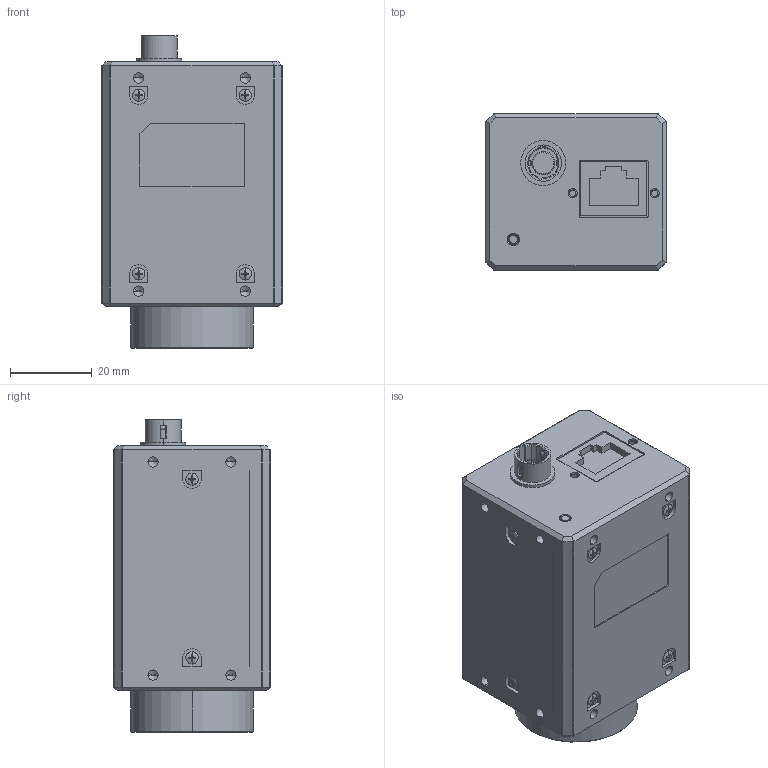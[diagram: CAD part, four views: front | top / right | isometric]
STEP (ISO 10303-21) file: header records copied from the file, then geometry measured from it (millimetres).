
FILE_DESCRIPTION((''),'2;1');
FILE_NAME('CA013','2017-12-08T',('zhangruofan'),(''),'PRO/ENGINEER BY PARAMETRIC TECHNOLOGY CORPORATION, 2016100','PRO/ENGINEER BY PARAMETRIC TECHNOLOGY CORPORATION, 2016100','');
FILE_SCHEMA(('CONFIG_CONTROL_DESIGN'));
Length unit declared in the file: millimetre
Products named in the file (1): CA013
Bounding box: 44 x 38.2 x 76.24 mm (x, y, z)
Volume: 98375.6 mm3; surface area: 27796.2 mm2
Topology: 1 solids, 24 shells, 1072 faces, 2760 edges, 1745 vertices
Faces by surface type: plane 619, cylinder 335, cone 78, torus 20, sphere 20
Entity records: 32622 total; most frequent: CARTESIAN_POINT 6422, DIRECTION 5484, ORIENTED_EDGE 5436, EDGE_CURVE 2718, AXIS2_PLACEMENT_3D 1963, VERTEX_POINT 1745, VECTOR 1558, LINE 1558
